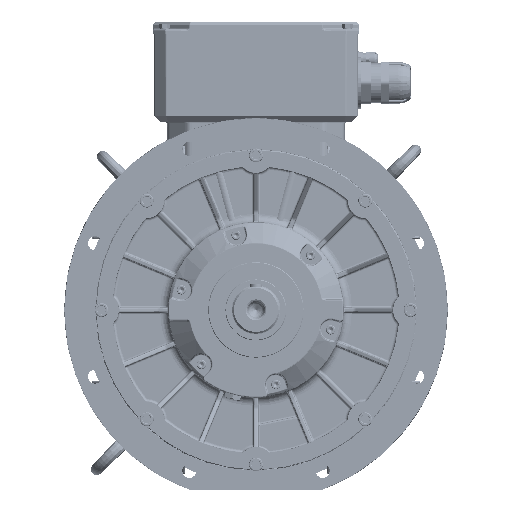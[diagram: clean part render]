
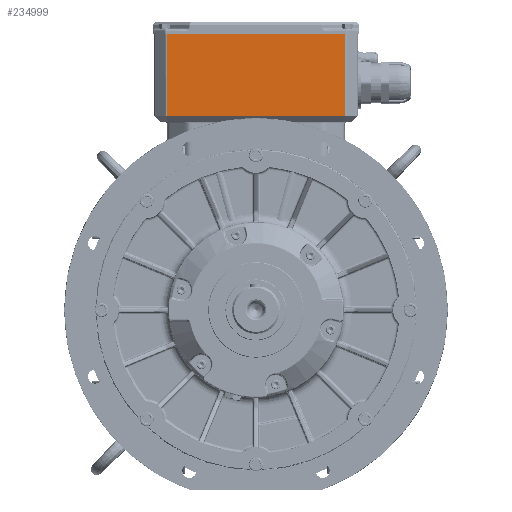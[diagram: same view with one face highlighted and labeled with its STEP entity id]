
A CAD part, front view. The second image highlights one B-rep face of the part: STEP entity #234999.
In plain terms, the highlighted planar face has unit normal (0, -1, 0).
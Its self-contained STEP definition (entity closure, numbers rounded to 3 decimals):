
#16969=LINE('',#368970,#32472);
#17001=LINE('',#369079,#32504);
#17006=LINE('',#369093,#32509);
#17007=LINE('',#369095,#32510);
#32472=VECTOR('',#290312,1000.);
#32504=VECTOR('',#290428,1000.);
#32509=VECTOR('',#290443,1000.);
#32510=VECTOR('',#290444,1000.);
#82843=ORIENTED_EDGE('',*,*,#109133,.T.);
#82844=ORIENTED_EDGE('',*,*,#109195,.T.);
#82845=ORIENTED_EDGE('',*,*,#109196,.T.);
#82846=ORIENTED_EDGE('',*,*,#109188,.T.);
#109133=EDGE_CURVE('',#125558,#125557,#16969,.F.);
#109188=EDGE_CURVE('',#125593,#125558,#17001,.T.);
#109195=EDGE_CURVE('',#125557,#125597,#17006,.T.);
#109196=EDGE_CURVE('',#125597,#125593,#17007,.T.);
#125557=VERTEX_POINT('',#368969);
#125558=VERTEX_POINT('',#368971);
#125593=VERTEX_POINT('',#369080);
#125597=VERTEX_POINT('',#369094);
#143197=EDGE_LOOP('',(#82843,#82844,#82845,#82846));
#155175=FACE_BOUND('',#143197,.T.);
#161228=PLANE('',#248585);
#234999=ADVANCED_FACE('',(#155175),#161228,.T.);
#248585=AXIS2_PLACEMENT_3D('',#369092,#290441,#290442);
#290312=DIRECTION('',(0.,0.,-1.));
#290428=DIRECTION('',(1.,0.,0.));
#290441=DIRECTION('',(0.,-1.,0.));
#290442=DIRECTION('',(1.,0.,0.));
#290443=DIRECTION('',(-1.,0.,0.));
#290444=DIRECTION('',(0.,0.,-1.));
#368969=CARTESIAN_POINT('',(153.757,40.,474.));
#368970=CARTESIAN_POINT('',(153.757,40.,476.5));
#368971=CARTESIAN_POINT('',(153.757,40.,334.));
#369079=CARTESIAN_POINT('',(155.,40.,334.));
#369080=CARTESIAN_POINT('',(-153.757,40.,334.));
#369092=CARTESIAN_POINT('',(155.,40.,476.5));
#369093=CARTESIAN_POINT('',(-189.445,40.,474.));
#369094=CARTESIAN_POINT('',(-153.757,40.,474.));
#369095=CARTESIAN_POINT('',(-153.757,40.,476.5));
